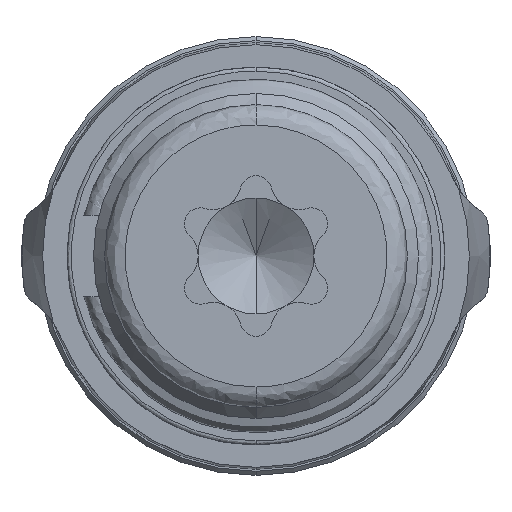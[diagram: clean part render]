
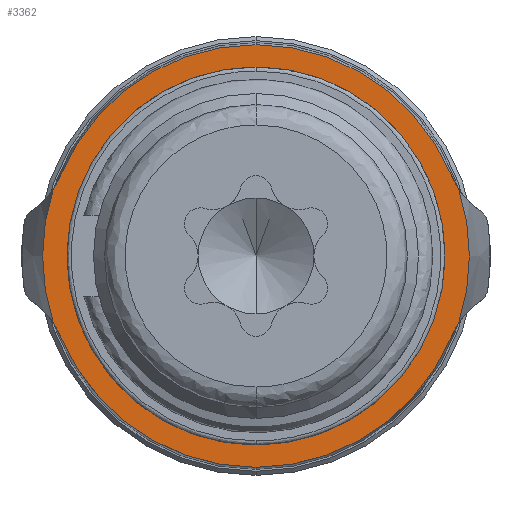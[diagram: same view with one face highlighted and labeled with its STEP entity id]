
A CAD part, front view. The second image highlights one B-rep face of the part: STEP entity #3362.
In plain terms, the highlighted planar face has unit normal (0, -1, 0).
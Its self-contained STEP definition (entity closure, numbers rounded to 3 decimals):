
#4 = ORIENTED_EDGE ( 'NONE', *, *, #3501, .F. ) ;
#39 = CIRCLE ( 'NONE', #1739, 4.65 ) ;
#207 = CARTESIAN_POINT ( 'NONE',  ( -4.984, 10.05, -1.655 ) ) ;
#239 = VERTEX_POINT ( 'NONE', #1754 ) ;
#254 = AXIS2_PLACEMENT_3D ( 'NONE', #895, #931, #932 ) ;
#257 = DIRECTION ( 'NONE',  ( 0., 1., 0. ) ) ;
#349 = EDGE_CURVE ( 'NONE', #2936, #403, #2559, .T. ) ;
#372 = ORIENTED_EDGE ( 'NONE', *, *, #1282, .T. ) ;
#376 = ORIENTED_EDGE ( 'NONE', *, *, #808, .F. ) ;
#403 = VERTEX_POINT ( 'NONE', #1795 ) ;
#491 = CARTESIAN_POINT ( 'NONE',  ( 0., 10.05, 0. ) ) ;
#549 = ORIENTED_EDGE ( 'NONE', *, *, #1378, .T. ) ;
#590 = CARTESIAN_POINT ( 'NONE',  ( 0., 10.05, 4.65 ) ) ;
#639 = CIRCLE ( 'NONE', #990, 4.65 ) ;
#788 = DIRECTION ( 'NONE',  ( 0., 0., -1. ) ) ;
#791 = DIRECTION ( 'NONE',  ( 0., -1., 0. ) ) ;
#799 = CARTESIAN_POINT ( 'NONE',  ( 0., 10.05, 0. ) ) ;
#808 = EDGE_CURVE ( 'NONE', #1926, #1358, #1085, .T. ) ;
#830 = CARTESIAN_POINT ( 'NONE',  ( 4.801, 10.05, -1.997 ) ) ;
#855 = DIRECTION ( 'NONE',  ( 0., 0., 1. ) ) ;
#857 = DIRECTION ( 'NONE',  ( 0., 1., 0. ) ) ;
#859 = CARTESIAN_POINT ( 'NONE',  ( -6.648, 10.05, 2.765 ) ) ;
#876 = CARTESIAN_POINT ( 'NONE',  ( 0., 10.05, 0. ) ) ;
#895 = CARTESIAN_POINT ( 'NONE',  ( 0., 10.05, 0. ) ) ;
#923 = PLANE ( 'NONE',  #254 ) ;
#931 = DIRECTION ( 'NONE',  ( 0., -1., 0. ) ) ;
#932 = DIRECTION ( 'NONE',  ( 0., 0., -1. ) ) ;
#980 = VERTEX_POINT ( 'NONE', #2218 ) ;
#990 = AXIS2_PLACEMENT_3D ( 'NONE', #876, #2179, #3515 ) ;
#1025 = AXIS2_PLACEMENT_3D ( 'NONE', #2088, #2650, #2009 ) ;
#1073 = VERTEX_POINT ( 'NONE', #2400 ) ;
#1085 = CIRCLE ( 'NONE', #1748, 5.2 ) ;
#1160 = VERTEX_POINT ( 'NONE', #2674 ) ;
#1166 = EDGE_CURVE ( 'NONE', #1073, #2082, #1942, .T. ) ;
#1244 = ORIENTED_EDGE ( 'NONE', *, *, #1918, .T. ) ;
#1267 = CIRCLE ( 'NONE', #1980, 2. ) ;
#1282 = EDGE_CURVE ( 'NONE', #2082, #1358, #2305, .T. ) ;
#1358 = VERTEX_POINT ( 'NONE', #1524 ) ;
#1378 = EDGE_CURVE ( 'NONE', #1926, #2936, #2706, .T. ) ;
#1407 = EDGE_CURVE ( 'NONE', #2585, #980, #639, .T. ) ;
#1422 = EDGE_CURVE ( 'NONE', #1160, #239, #3105, .T. ) ;
#1431 = DIRECTION ( 'NONE',  ( 0., 1., 0. ) ) ;
#1455 = EDGE_CURVE ( 'NONE', #239, #2617, #2542, .T. ) ;
#1502 = CARTESIAN_POINT ( 'NONE',  ( 6.648, 10.05, 2.765 ) ) ;
#1524 = CARTESIAN_POINT ( 'NONE',  ( -4.801, 10.05, -1.997 ) ) ;
#1546 = AXIS2_PLACEMENT_3D ( 'NONE', #859, #857, #855 ) ;
#1555 = CARTESIAN_POINT ( 'NONE',  ( 0., 10.05, 0. ) ) ;
#1589 = DIRECTION ( 'NONE',  ( 0., 0., 1. ) ) ;
#1602 = DIRECTION ( 'NONE',  ( 0., 0., 1. ) ) ;
#1708 = CARTESIAN_POINT ( 'NONE',  ( 0., 10.05, 0. ) ) ;
#1739 = AXIS2_PLACEMENT_3D ( 'NONE', #799, #791, #788 ) ;
#1748 = AXIS2_PLACEMENT_3D ( 'NONE', #1708, #3458, #1589 ) ;
#1754 = CARTESIAN_POINT ( 'NONE',  ( 0., 10.05, 5.2 ) ) ;
#1795 = CARTESIAN_POINT ( 'NONE',  ( 4.984, 10.05, 1.655 ) ) ;
#1918 = EDGE_CURVE ( 'NONE', #1160, #1073, #2378, .T. ) ;
#1926 = VERTEX_POINT ( 'NONE', #830 ) ;
#1942 = CIRCLE ( 'NONE', #2391, 5.252 ) ;
#1980 = AXIS2_PLACEMENT_3D ( 'NONE', #1502, #257, #1602 ) ;
#2009 = DIRECTION ( 'NONE',  ( 0., 0., 1. ) ) ;
#2052 = EDGE_LOOP ( 'NONE', ( #4, #2129 ) ) ;
#2082 = VERTEX_POINT ( 'NONE', #207 ) ;
#2088 = CARTESIAN_POINT ( 'NONE',  ( 6.648, 10.05, -2.765 ) ) ;
#2129 = ORIENTED_EDGE ( 'NONE', *, *, #1407, .F. ) ;
#2155 = CARTESIAN_POINT ( 'NONE',  ( 0., 10.05, 0. ) ) ;
#2160 = DIRECTION ( 'NONE',  ( 0., 0., 1. ) ) ;
#2163 = DIRECTION ( 'NONE',  ( 0., 1., 0. ) ) ;
#2179 = DIRECTION ( 'NONE',  ( 0., -1., 0. ) ) ;
#2218 = CARTESIAN_POINT ( 'NONE',  ( 0., 10.05, -4.65 ) ) ;
#2277 = DIRECTION ( 'NONE',  ( 0., 0., 1. ) ) ;
#2305 = CIRCLE ( 'NONE', #2626, 2. ) ;
#2349 = ORIENTED_EDGE ( 'NONE', *, *, #349, .T. ) ;
#2378 = CIRCLE ( 'NONE', #1546, 2. ) ;
#2391 = AXIS2_PLACEMENT_3D ( 'NONE', #2741, #2744, #2745 ) ;
#2400 = CARTESIAN_POINT ( 'NONE',  ( -4.984, 10.05, 1.655 ) ) ;
#2521 = ORIENTED_EDGE ( 'NONE', *, *, #1166, .T. ) ;
#2530 = EDGE_LOOP ( 'NONE', ( #2832, #1244, #2521, #372, #376, #549, #2349, #3405, #3326 ) ) ;
#2534 = AXIS2_PLACEMENT_3D ( 'NONE', #491, #1431, #2865 ) ;
#2542 = CIRCLE ( 'NONE', #2920, 5.2 ) ;
#2559 = CIRCLE ( 'NONE', #3576, 5.252 ) ;
#2585 = VERTEX_POINT ( 'NONE', #590 ) ;
#2617 = VERTEX_POINT ( 'NONE', #2805 ) ;
#2626 = AXIS2_PLACEMENT_3D ( 'NONE', #3304, #3307, #3317 ) ;
#2650 = DIRECTION ( 'NONE',  ( 0., 1., 0. ) ) ;
#2674 = CARTESIAN_POINT ( 'NONE',  ( -4.801, 10.05, 1.997 ) ) ;
#2706 = CIRCLE ( 'NONE', #1025, 2. ) ;
#2741 = CARTESIAN_POINT ( 'NONE',  ( 0., 10.05, 0. ) ) ;
#2743 = DIRECTION ( 'NONE',  ( 0., -1., 0. ) ) ;
#2744 = DIRECTION ( 'NONE',  ( 0., -1., 0. ) ) ;
#2745 = DIRECTION ( 'NONE',  ( 0., 0., 1. ) ) ;
#2805 = CARTESIAN_POINT ( 'NONE',  ( 4.801, 10.05, 1.997 ) ) ;
#2826 = CARTESIAN_POINT ( 'NONE',  ( 4.984, 10.05, -1.655 ) ) ;
#2832 = ORIENTED_EDGE ( 'NONE', *, *, #1422, .F. ) ;
#2865 = DIRECTION ( 'NONE',  ( 0., 0., 1. ) ) ;
#2920 = AXIS2_PLACEMENT_3D ( 'NONE', #2155, #2163, #2160 ) ;
#2936 = VERTEX_POINT ( 'NONE', #2826 ) ;
#3105 = CIRCLE ( 'NONE', #2534, 5.2 ) ;
#3233 = EDGE_CURVE ( 'NONE', #403, #2617, #1267, .T. ) ;
#3304 = CARTESIAN_POINT ( 'NONE',  ( -6.648, 10.05, -2.765 ) ) ;
#3305 = FACE_OUTER_BOUND ( 'NONE', #2530, .T. ) ;
#3307 = DIRECTION ( 'NONE',  ( 0., 1., 0. ) ) ;
#3317 = DIRECTION ( 'NONE',  ( 0., 0., 1. ) ) ;
#3326 = ORIENTED_EDGE ( 'NONE', *, *, #1455, .F. ) ;
#3362 = ADVANCED_FACE ( 'NONE', ( #3305, #3491 ), #923, .T. ) ;
#3405 = ORIENTED_EDGE ( 'NONE', *, *, #3233, .T. ) ;
#3458 = DIRECTION ( 'NONE',  ( 0., 1., 0. ) ) ;
#3491 = FACE_BOUND ( 'NONE', #2052, .T. ) ;
#3501 = EDGE_CURVE ( 'NONE', #980, #2585, #39, .T. ) ;
#3515 = DIRECTION ( 'NONE',  ( 0., 0., -1. ) ) ;
#3576 = AXIS2_PLACEMENT_3D ( 'NONE', #1555, #2743, #2277 ) ;
